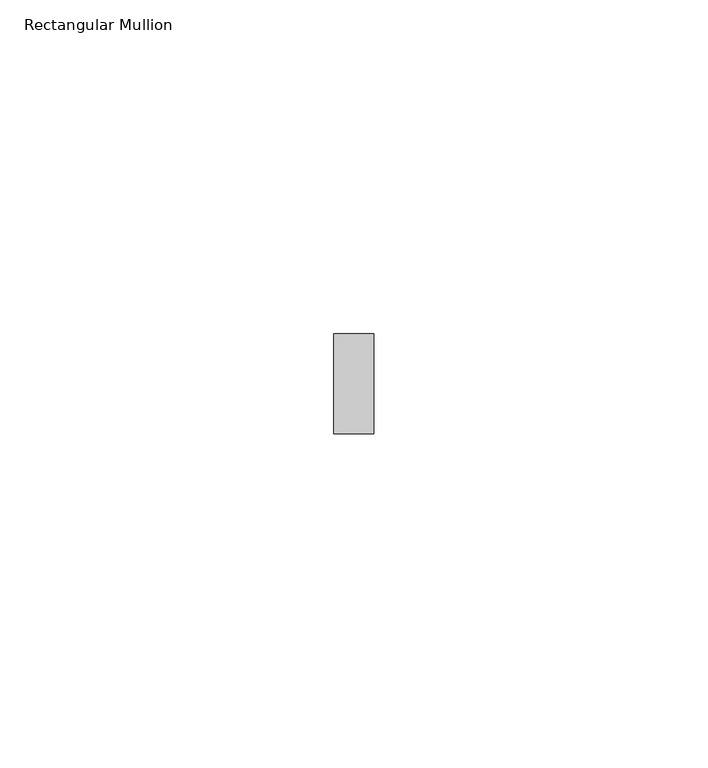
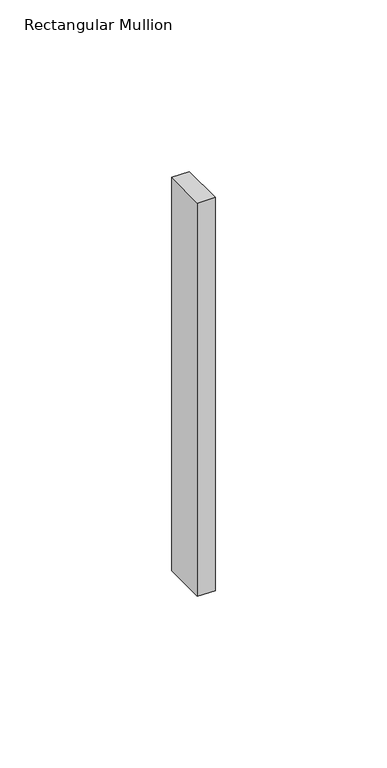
"""IFC4 building model written with IfcOpenShell, lengths in millimetres: member geometry, Rectangular Mullion : ARQ_HERR_15X6mm."""

from ifc_helpers import new_model, si_unit, frame, origin, place, context, project, spatial, polyline, outline, extrude, source, transform, mapped, element, save


def rectangular_mullion_5442057b(model_context):
    return source(origin(), model_context, "Body", "SweptSolid", [
        extrude(outline(polyline([(3.0, 7.5), (3.0, -7.5), (-3.0, -7.5), (-3.0, 7.5), (3.0, 7.5)])), frame((0.0, 0.0, -140.0), z_axis=(0.0, 0.0, 1.0), x_axis=(1.0, 0.0, 0.0)), (0.0, 0.0, 1.0), 140.0),
    ])


if __name__ == "__main__":
    model = new_model("IFC4")
    model_context = context("Model", 3, world=origin())
    ifc_project = project(units=[si_unit("LENGTHUNIT", "METRE", prefix="MILLI")], contexts=[model_context])
    site = spatial("IfcSite", under=ifc_project)
    building = spatial("IfcBuilding", under=site)
    placement = place(None, origin())
    rectangular_mullion_shape = rectangular_mullion_5442057b(model_context)
    element("IfcMember", 1, ObjectType="Rectangular Mullion : ARQ_HERR_15X6mm", at=placement, inside=building, context=model_context, shape_type="MappedRepresentation", body=[
        mapped(rectangular_mullion_shape, transform((0.0, 0.0, 0.0), x_axis=(1.0, 0.0, 0.0), y_axis=(0.0, 1.0, 0.0), z_axis=(0.0, 0.0, 1.0))),
    ])
    save(model, "model.ifc")
